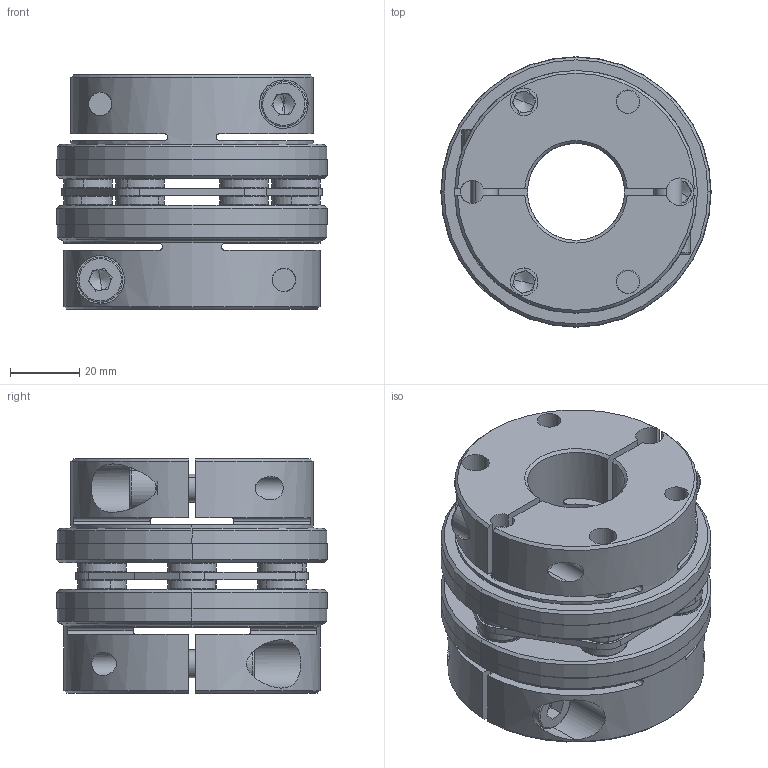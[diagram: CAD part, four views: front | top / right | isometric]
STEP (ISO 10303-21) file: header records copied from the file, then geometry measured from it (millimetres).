
FILE_DESCRIPTION (( 'STEP AP203' ), '1' );
FILE_NAME ('SCDS-78C-TYPE5(28X38).STEP', '2021-12-27T01:39:35', ( '' ), ( '' ), 'SwSTEP 2.0', 'SolidWorks 2021', '' );
FILE_SCHEMA (( 'CONFIG_CONTROL_DESIGN' ));
Length unit declared in the file: millimetre
Products named in the file (1): SCDS-78C-TYPE5(28X38)
Bounding box: 78 x 78 x 67.7 mm (x, y, z)
Volume: 184090.5 mm3; surface area: 66578.4 mm2
Topology: 1 solids, 13 shells, 683 faces, 1657 edges, 1018 vertices
Faces by surface type: cylinder 251, plane 214, cone 120, torus 98
Entity records: 21316 total; most frequent: CARTESIAN_POINT 4693, DIRECTION 3775, ORIENTED_EDGE 3274, EDGE_CURVE 1637, AXIS2_PLACEMENT_3D 1554, VERTEX_POINT 1018, CIRCLE 870, EDGE_LOOP 795
